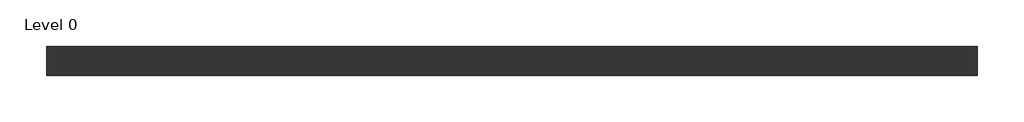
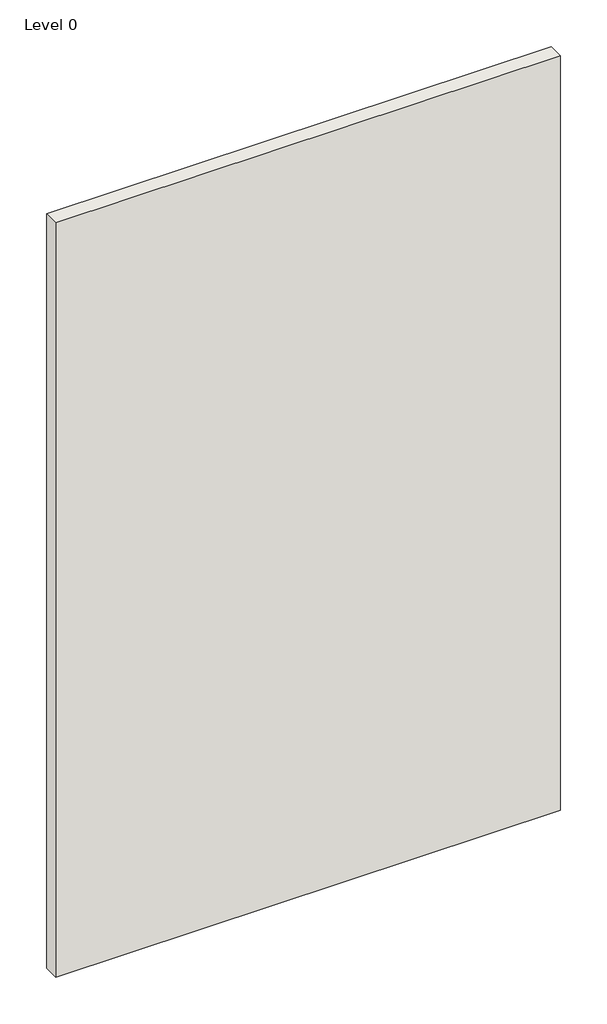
# One storey: 1 wall.
"""IFC4 building model written with IfcOpenShell, lengths in millimetres."""

import ifcopenshell
import ifcopenshell.guid

model = None  # the IFC model being written
_history = None  # IfcOwnerHistory: only IFC2X3 demands one
_inside = {}  # id of a spatial element -> (the spatial element, [elements in it])
_under = {}  # id of a project, library or spatial element -> (it, [spatial elements below it])
_declared = {}  # id of a project -> (the project, [libraries it declares])
_typed = {}  # id of a type object -> (the type object, [elements of that type])
_made_of = {}  # id of a material, layer set ... -> (it, [elements and type objects made of it])


def new_model(schema):
    """Start an empty IFC model of exactly this schema.

    Asked for "IFC4X3", IfcOpenShell would pick the latest addendum, in which some entities
    have other attributes; the version numbers below select the first issue.
    IFC2X3 requires an IfcOwnerHistory on every rooted entity: one is made here for all.
    """
    global model, _history
    if schema == "IFC4X3":
        model = ifcopenshell.file(schema_version=(4, 3, 0, 0))
    else:
        model = ifcopenshell.file(schema=schema)
    _inside.clear()
    _under.clear()
    _declared.clear()
    _typed.clear()
    _made_of.clear()
    _history = None
    if model.schema == "IFC2X3":
        org = make("IfcOrganization", Name="unknown")
        user = make(
            "IfcPersonAndOrganization",
            ThePerson=make("IfcPerson", FamilyName="unknown"),
            TheOrganization=org,
        )
        app = make(
            "IfcApplication",
            ApplicationDeveloper=org,
            Version="unknown",
            ApplicationFullName="unknown",
            ApplicationIdentifier="unknown",
        )
        _history = make(
            "IfcOwnerHistory",
            OwningUser=user,
            OwningApplication=app,
            ChangeAction="ADDED",
            CreationDate=0,
        )
    return model


def make(cls, **values):
    """One entity of the class cls with the attributes given. An attribute that is None is left unset."""
    return model.create_entity(
        cls, **{name: value for name, value in values.items() if value is not None}
    )


def rooted(cls, **values):
    """An entity with a GlobalId (a new one), such as an element, a storey or a relation."""
    return make(cls, GlobalId=ifcopenshell.guid.new(), OwnerHistory=_history, **values)


def si_unit(unit_type, name, prefix=None):
    """IfcSIUnit, for example si_unit("LENGTHUNIT", "METRE", prefix="MILLI")."""
    return make("IfcSIUnit", UnitType=unit_type, Prefix=prefix, Name=name)


def assignment(units):
    """IfcUnitAssignment: the units of a project."""
    return None if units is None else make("IfcUnitAssignment", Units=units)


def point(xyz):
    """IfcCartesianPoint."""
    return None if xyz is None else make("IfcCartesianPoint", Coordinates=xyz)


def direction(xyz):
    """IfcDirection."""
    return None if xyz is None else make("IfcDirection", DirectionRatios=xyz)


def frame(location, z_axis=None, x_axis=None):
    """IfcAxis2Placement3D, a coordinate frame: its origin and axes. An axis left out is left unset."""
    return make(
        "IfcAxis2Placement3D",
        Location=point(location),
        Axis=direction(z_axis),
        RefDirection=direction(x_axis),
    )


def origin():
    """The frame at (0, 0, 0) with its axes left unset."""
    return frame((0.0, 0.0, 0.0))


def origin_with_axes():
    """The frame at (0, 0, 0) with the z axis (0, 0, 1) and the x axis (1, 0, 0) written out."""
    return frame((0.0, 0.0, 0.0), z_axis=(0.0, 0.0, 1.0), x_axis=(1.0, 0.0, 0.0))


def place(relative_to, where):
    """IfcLocalPlacement: puts the frame where relative to a parent placement (None: the world)."""
    return make(
        "IfcLocalPlacement", PlacementRelTo=relative_to, RelativePlacement=where
    )


def context(
    kind, dimensions, precision=None, world=None, true_north=None, identifier=None
):
    """IfcGeometricRepresentationContext, for example the 3D "Model" context."""
    return make(
        "IfcGeometricRepresentationContext",
        ContextIdentifier=identifier,
        ContextType=kind,
        CoordinateSpaceDimension=dimensions,
        Precision=precision,
        WorldCoordinateSystem=world,
        TrueNorth=true_north,
    )


def project(units=None, contexts=None):
    """IfcProject with its units and contexts."""
    return rooted(
        "IfcProject",
        Name="project",
        RepresentationContexts=contexts,
        UnitsInContext=assignment(units),
    )


def spatial(cls, under=None, at=None, **own):
    """A site, building, storey or space (cls), placed at a placement, below another one or the project."""
    s = rooted(cls, ObjectPlacement=at, **own)
    if under is not None:
        _under.setdefault(under.id(), (under, []))[1].append(s)
    return s


def polyline(points):
    """IfcPolyline through the points."""
    return make("IfcPolyline", Points=[point(p) for p in points])


def outline(outer, holes=None, kind="AREA"):
    """IfcArbitraryClosedProfileDef: a profile drawn as a closed curve; with holes, ...WithVoids."""
    if holes is None:
        return make("IfcArbitraryClosedProfileDef", ProfileType=kind, OuterCurve=outer)
    return make(
        "IfcArbitraryProfileDefWithVoids",
        ProfileType=kind,
        OuterCurve=outer,
        InnerCurves=holes,
    )


def extrude(swept, where, along, depth):
    """IfcExtrudedAreaSolid: the profile swept, set in the frame where, extruded along a direction by depth."""
    return make(
        "IfcExtrudedAreaSolid",
        SweptArea=swept,
        Position=where,
        ExtrudedDirection=direction(along),
        Depth=depth,
    )


def shape(context_of_items, identifier, shape_type, items):
    """IfcShapeRepresentation: the items that make up one representation, for example the "Body"."""
    return make(
        "IfcShapeRepresentation",
        ContextOfItems=context_of_items,
        RepresentationIdentifier=identifier,
        RepresentationType=shape_type,
        Items=items,
    )


def made_of(thing, what):
    """Note that an element or type object is made of a material, layer set ...; save() writes the relation."""
    if what is not None:
        _made_of.setdefault(what.id(), (what, []))[1].append(thing)
    return thing


def element(
    cls,
    number,
    at=None,
    inside=None,
    cuts=None,
    type_object=None,
    material=None,
    context=None,
    identifier="Body",
    shape_type=None,
    held_by="IfcProductDefinitionShape",
    body=None,
    shapes=None,
    **own,
):
    """One element of the class cls, such as IfcWall. Its Tag is "e" and its number.

    at: its placement. inside: the storey or other place that contains it. cuts: it is an
    opening in that element (IfcRelVoidsElement). A single representation is given by context,
    identifier, shape_type and body (its items); several are given by shapes. held_by: the class
    of the entity that holds the representations. save() writes the other relations.
    """
    e = rooted(cls, Tag="e%d" % number, ObjectPlacement=at, **own)
    if body is not None:
        shapes = [shape(context, identifier, shape_type, body)]
    if shapes is not None:
        e.Representation = make(held_by, Representations=shapes)
    if inside is not None:
        _inside.setdefault(inside.id(), (inside, []))[1].append(e)
    if cuts is not None:
        rooted(
            "IfcRelVoidsElement", RelatingBuildingElement=cuts, RelatedOpeningElement=e
        )
    if type_object is not None:
        _typed.setdefault(type_object.id(), (type_object, []))[1].append(e)
    return made_of(e, material)


def aggregate(whole, parts):
    """IfcRelAggregates: a whole, such as a stair, and the parts it consists of."""
    return rooted("IfcRelAggregates", RelatingObject=whole, RelatedObjects=parts)


def save(model, path):
    """Write the relations noted so far, then the file.

    IfcRelAggregates (storeys below a building ...), IfcRelContainedInSpatialStructure (elements
    in a storey), IfcRelDefinesByType, IfcRelAssociatesMaterial and IfcRelDeclares: one each for
    every whole, place, type object, material and project.
    """
    for whole, parts in _under.values():
        aggregate(whole, parts)
    for where, things in _inside.values():
        rooted(
            "IfcRelContainedInSpatialStructure",
            RelatedElements=things,
            RelatingStructure=where,
        )
    for kind, things in _typed.values():
        rooted("IfcRelDefinesByType", RelatedObjects=things, RelatingType=kind)
    for what, things in _made_of.values():
        rooted("IfcRelAssociatesMaterial", RelatedObjects=things, RelatingMaterial=what)
    for by, libraries in _declared.values():
        rooted("IfcRelDeclares", RelatingContext=by, RelatedDefinitions=libraries)
    model.write(path)


model = new_model("IFC4")

# Units and contexts
model_context = context("Model", 3, world=origin())
ifc_project = project(units=[si_unit("LENGTHUNIT", "METRE", prefix="MILLI")], contexts=[model_context])

# Site, building, storey
site = spatial("IfcSite", under=ifc_project)
building = spatial("IfcBuilding", under=site)
storey = spatial("IfcBuildingStorey", under=building, Name="Level 0", Elevation=0.0)

# Wall
placement = place(None, origin())
element("IfcWall", 1, ObjectType="A206A013 - GypWall Classic", at=placement, inside=storey, context=model_context, shape_type="SweptSolid", body=[
    extrude(outline(polyline([(1155.997948, 506.7669953), (-1944.002052, 506.7669953), (-1944.002052, 603.7669953), (1155.997948, 603.7669953), (1155.997948, 506.7669953)])), origin_with_axes(), (0.0, 0.0, 1.0), 4900.0),
])

save(model, "model.ifc")
